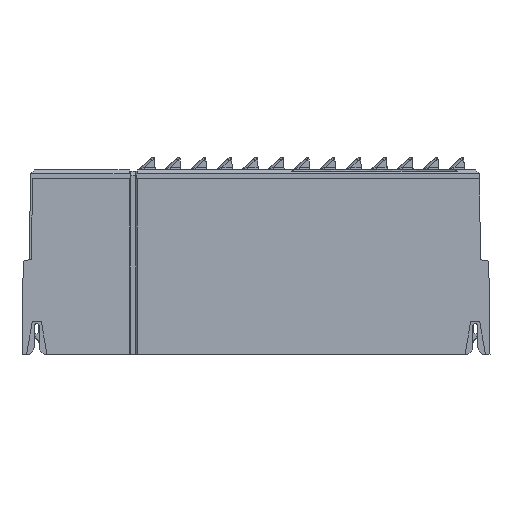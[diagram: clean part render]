
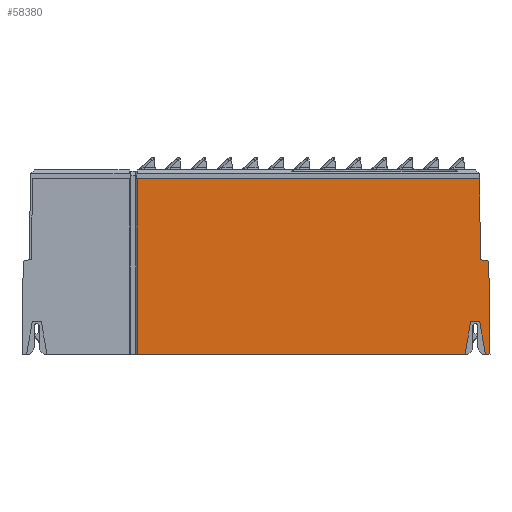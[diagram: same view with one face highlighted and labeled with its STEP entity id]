
A CAD part, left-side view. The second image highlights one B-rep face of the part: STEP entity #58380.
In plain terms, the highlighted planar face has unit normal (-1, 0, 0.013).
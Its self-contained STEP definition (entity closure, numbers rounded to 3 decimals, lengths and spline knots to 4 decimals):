
#17977=DIRECTION('',(-0.013,0.,-1.));
#17978=VECTOR('',#17977,2.1452);
#17979=CARTESIAN_POINT('',(-0.6549,1.45,1.77));
#17980=LINE('',#17979,#17978);
#17981=DIRECTION('',(0.,-1.,0.));
#17982=VECTOR('',#17981,4.1791);
#17983=CARTESIAN_POINT('',(-0.6549,1.45,1.77));
#17984=LINE('',#17983,#17982);
#17985=DIRECTION('',(-0.013,-0.013,-1.));
#17986=VECTOR('',#17985,0.9872);
#17987=CARTESIAN_POINT('',(-0.6549,-2.7291,1.77));
#17988=LINE('',#17987,#17986);
#17989=DIRECTION('',(-0.002,-0.985,-0.17));
#17990=VECTOR('',#17989,0.1026);
#17991=CARTESIAN_POINT('',(-0.6678,-2.742,0.783));
#17992=LINE('',#17991,#17990);
#17993=DIRECTION('',(-0.013,-0.013,-1.));
#17994=VECTOR('',#17993,1.1408);
#17995=CARTESIAN_POINT('',(-0.6681,-2.8431,
0.7656));
#17996=LINE('',#17995,#17994);
#17997=DIRECTION('',(0.,1.,0.));
#17998=VECTOR('',#17997,0.055);
#17999=CARTESIAN_POINT('',(-0.683,-2.858,-0.375));
#18000=LINE('',#17999,#17998);
#18001=DIRECTION('',(-0.013,-0.174,-0.985));
#18002=VECTOR('',#18001,0.4062);
#18003=CARTESIAN_POINT('',(-0.6778,-2.7325,0.025));
#18004=LINE('',#18003,#18002);
#18005=DIRECTION('',(0.,-1.,0.));
#18006=VECTOR('',#18005,0.11);
#18007=CARTESIAN_POINT('',(-0.6778,-2.6225,0.025));
#18008=LINE('',#18007,#18006);
#18009=DIRECTION('',(0.013,-0.174,0.985));
#18010=VECTOR('',#18009,0.4062);
#18011=CARTESIAN_POINT('',(-0.683,-2.552,-0.375));
#18012=LINE('',#18011,#18010);
#18013=DIRECTION('',(0.,-1.,0.));
#18014=VECTOR('',#18013,4.002);
#18015=CARTESIAN_POINT('',(-0.683,1.45,-0.375));
#18016=LINE('',#18015,#18014);
#25750=CARTESIAN_POINT('',(-0.683,1.45,-0.375));
#25751=VERTEX_POINT('',#25750);
#25765=CARTESIAN_POINT('',(-0.6549,1.45,1.77));
#25767=VERTEX_POINT('',#25765);
#25820=CARTESIAN_POINT('',(-0.6681,-2.8431,
0.7656));
#25822=VERTEX_POINT('',#25820);
#26179=CARTESIAN_POINT('',(-0.6678,-2.742,0.783));
#26180=VERTEX_POINT('',#26179);
#26993=CARTESIAN_POINT('',(-0.683,-2.803,-0.375));
#26994=VERTEX_POINT('',#26993);
#26995=CARTESIAN_POINT('',(-0.683,-2.552,-0.375));
#26996=VERTEX_POINT('',#26995);
#27015=CARTESIAN_POINT('',(-0.6778,-2.6225,0.025));
#27016=VERTEX_POINT('',#27015);
#27019=CARTESIAN_POINT('',(-0.6778,-2.7325,0.025));
#27020=VERTEX_POINT('',#27019);
#27023=CARTESIAN_POINT('',(-0.683,-2.858,-0.375));
#27024=VERTEX_POINT('',#27023);
#27035=CARTESIAN_POINT('',(-0.6549,-2.7291,1.77));
#27036=VERTEX_POINT('',#27035);
#58356=CARTESIAN_POINT('',(-0.683,2.9335,-0.375));
#58357=DIRECTION('',(-1.,0.,0.013));
#58358=DIRECTION('',(0.,1.,0.));
#58359=AXIS2_PLACEMENT_3D('',#58356,#58357,#58358);
#58360=PLANE('',#58359);
#58361=ORIENTED_EDGE('',*,*,#58298,.F.);
#58363=ORIENTED_EDGE('',*,*,#58362,.T.);
#58365=ORIENTED_EDGE('',*,*,#58364,.T.);
#58367=ORIENTED_EDGE('',*,*,#58366,.T.);
#58369=ORIENTED_EDGE('',*,*,#58368,.T.);
#58370=ORIENTED_EDGE('',*,*,#58013,.T.);
#58372=ORIENTED_EDGE('',*,*,#58371,.F.);
#58374=ORIENTED_EDGE('',*,*,#58373,.F.);
#58376=ORIENTED_EDGE('',*,*,#58375,.F.);
#58377=ORIENTED_EDGE('',*,*,#57985,.F.);
#58378=EDGE_LOOP('',(#58361,#58363,#58365,#58367,#58369,#58370,#58372,#58374,
#58376,#58377));
#58379=FACE_OUTER_BOUND('',#58378,.F.);
#58380=ADVANCED_FACE('',(#58379),#58360,.T.);
#57985=EDGE_CURVE('',#25751,#26996,#18016,.T.);
#58013=EDGE_CURVE('',#27024,#26994,#18000,.T.);
#58298=EDGE_CURVE('',#25767,#25751,#17980,.T.);
#58362=EDGE_CURVE('',#25767,#27036,#17984,.T.);
#58364=EDGE_CURVE('',#27036,#26180,#17988,.T.);
#58366=EDGE_CURVE('',#26180,#25822,#17992,.T.);
#58368=EDGE_CURVE('',#25822,#27024,#17996,.T.);
#58371=EDGE_CURVE('',#27020,#26994,#18004,.T.);
#58373=EDGE_CURVE('',#27016,#27020,#18008,.T.);
#58375=EDGE_CURVE('',#26996,#27016,#18012,.T.);
